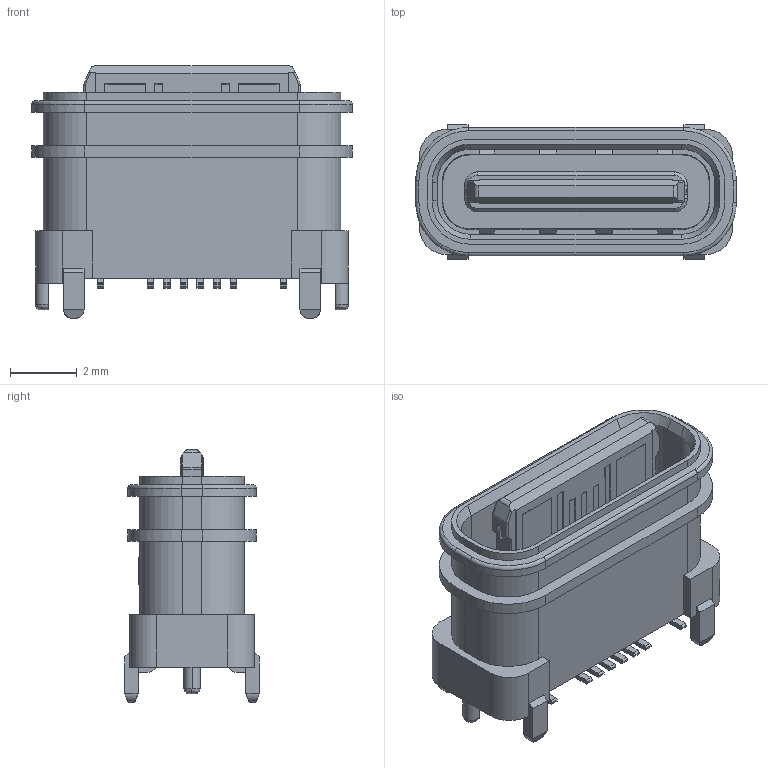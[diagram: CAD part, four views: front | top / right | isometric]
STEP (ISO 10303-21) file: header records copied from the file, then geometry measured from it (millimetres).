
FILE_DESCRIPTION (( 'STEP AP214' ), '1' );
FILE_NAME ('U5350-16PNW6.68LF.STEP', '2026-07-30T07:35:16', ( '' ), ( '' ), 'SwSTEP 2.0', 'SolidWorks 2024', '' );
FILE_SCHEMA (( 'AUTOMOTIVE_DESIGN' ));
Length unit declared in the file: millimetre
Products named in the file (1): U5350-16PNW6.68LF
Bounding box: 9.64 x 4.04 x 7.58 mm (x, y, z)
Volume: 94.8 mm3; surface area: 465.7 mm2
Topology: 1 solids, 7 shells, 897 faces, 2506 edges, 1632 vertices
Faces by surface type: plane 638, cylinder 182, bspline 33, cone 32, torus 12
Entity records: 30352 total; most frequent: CARTESIAN_POINT 7236, ORIENTED_EDGE 5008, DIRECTION 4521, EDGE_CURVE 2504, VECTOR 1987, LINE 1987, VERTEX_POINT 1632, AXIS2_PLACEMENT_3D 1267
